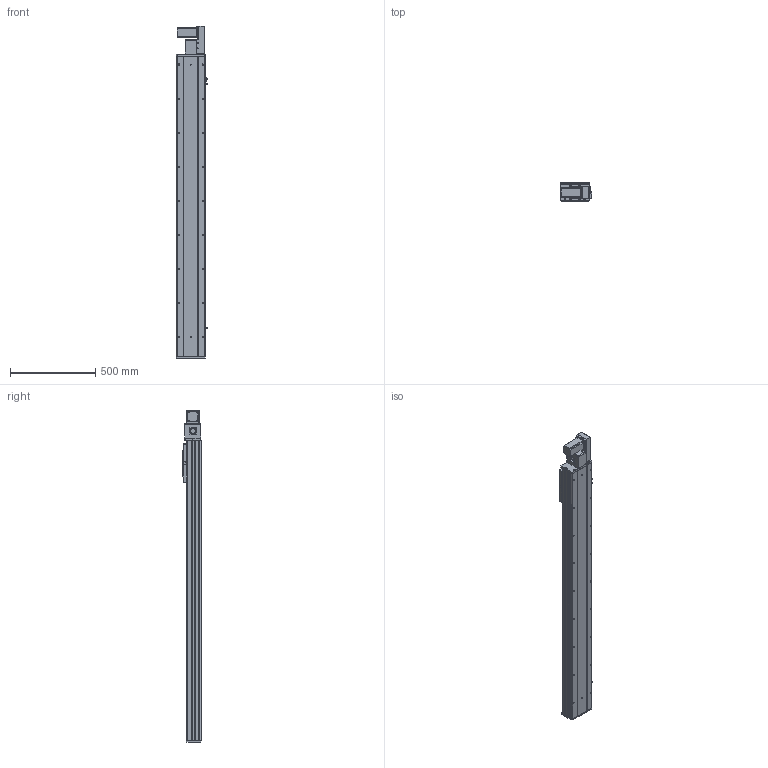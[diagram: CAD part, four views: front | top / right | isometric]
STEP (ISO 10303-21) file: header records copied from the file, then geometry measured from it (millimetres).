
FILE_DESCRIPTION (( 'STEP AP203' ), '1' );
FILE_NAME ('Y170CB-D105-S1450-BR-P400W.STEP', '2020-02-19T09:19:38', ( '微软用户' ), ( '微软中国' ), 'SwSTEP 2.0', 'SolidWorks 2017', '' );
FILE_SCHEMA (( 'CONFIG_CONTROL_DESIGN' ));
Length unit declared in the file: millimetre
Products named in the file (17): 70B喘謫眊----; B-源倛裔啣; 17B-耜蚾蟀諉啣----; 0B-萇儂楊擘啣; san松下电机400不带刹车----; Y70俋欶BR----; 70CB-掛极-; --70CB --喘謫眊楊擘啣-; 70CB-耜裔啣-; 70C--詩湍揤踡え-; 70CB--耜裔; 70C-雄赽釱-奻-; 0C--雄赽釱俋欶-170; 70CB-詩湍--; Y100-135俋离換覜ん--; Y170CB-陔俋离換覜結え---; Y170CB-D105-S1450-BR-P400W
Assembly tree (20 placements, depth 2):
  Y170CB-D105-S1450-BR-P400W
    70B喘謫眊----
    B-源倛裔啣
    17B-耜蚾蟀諉啣----
    0B-萇儂楊擘啣
    san松下电机400不带刹车----
    Y70俋欶BR----
    70CB-掛极-
    --70CB --喘謫眊楊擘啣-
    70CB-耜裔啣-  x2
    70C--詩湍揤踡え-  x2
    70CB--耜裔
    70C-雄赽釱-奻-
    0C--雄赽釱俋欶-170
    70CB-詩湍--
    Y100-135俋离換覜ん--  x3
    Y170CB-陔俋离換覜結え---
Bounding box: 183.5 x 107 x 1947 mm (x, y, z)
Volume: 8304524.5 mm3; surface area: 2978704 mm2
Topology: 20 solids, 20 shells, 1009 faces, 2705 edges, 1794 vertices
Faces by surface type: cylinder 523, plane 462, cone 24
Entity records: 32043 total; most frequent: CARTESIAN_POINT 5901, DIRECTION 5212, ORIENTED_EDGE 4892, EDGE_CURVE 2446, AXIS2_PLACEMENT_3D 1905, VERTEX_POINT 1624, LINE 1402, VECTOR 1402
